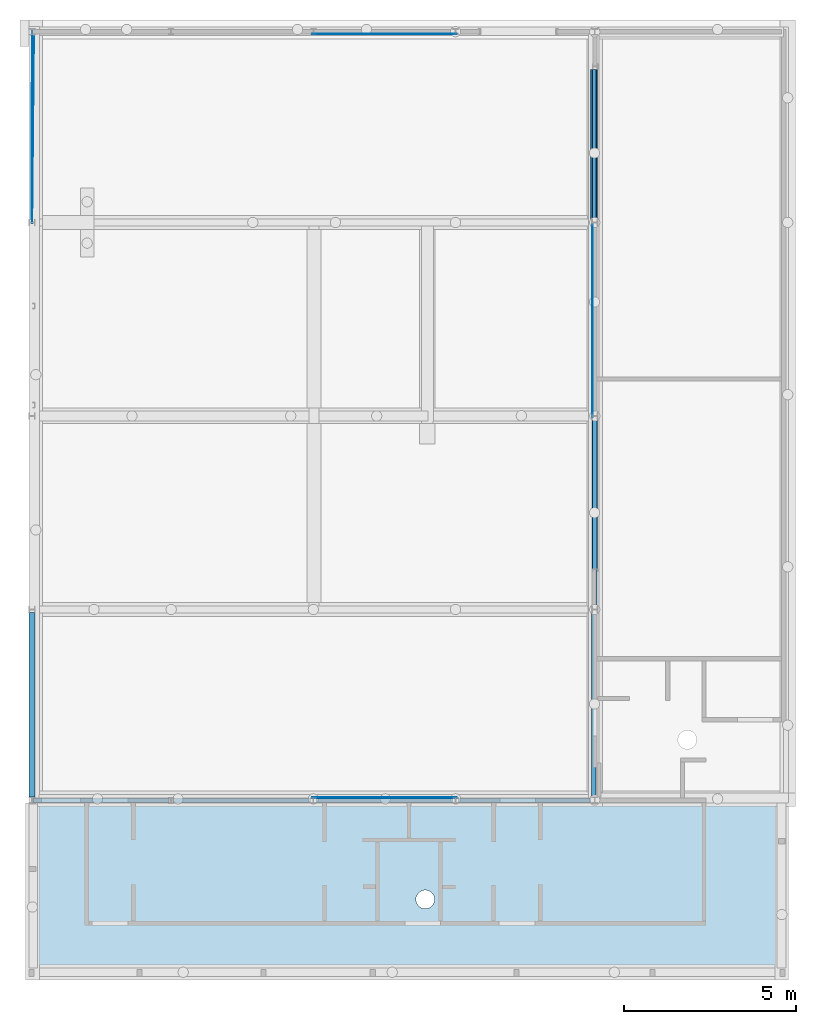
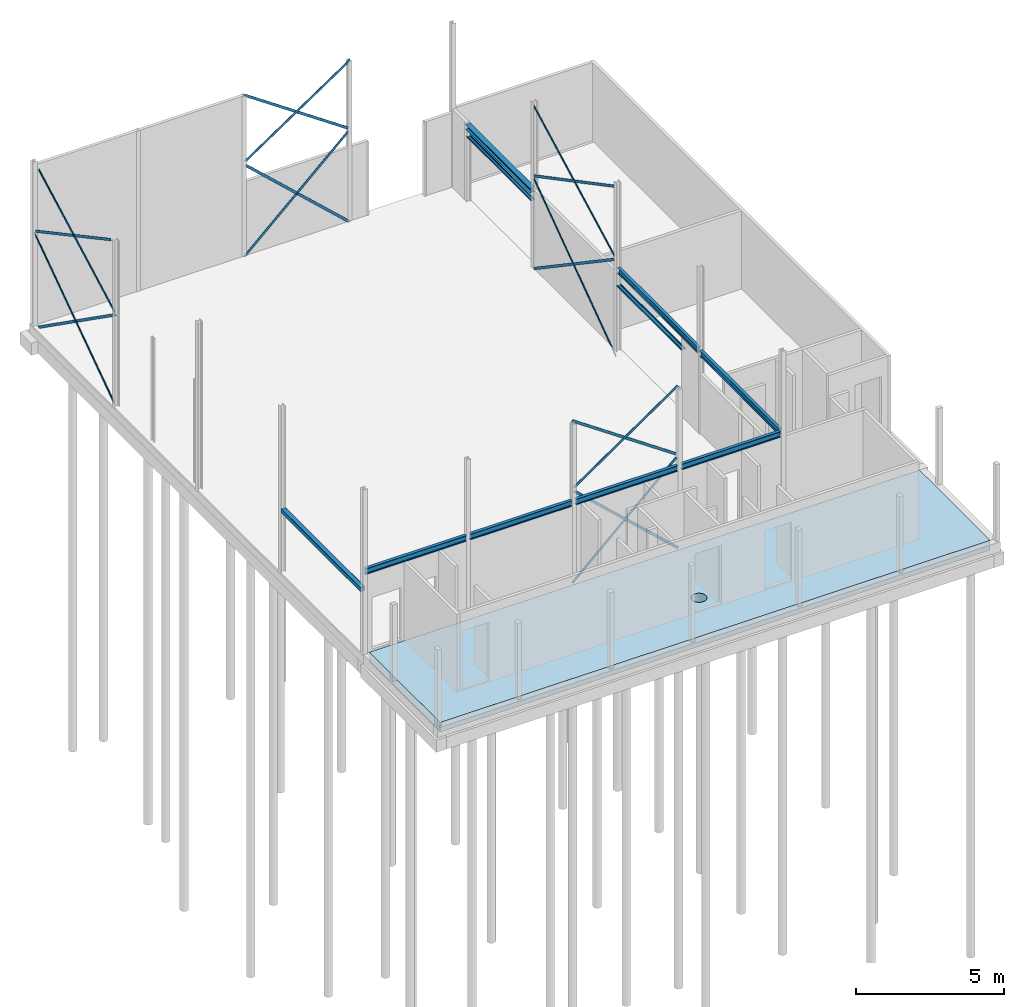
# One storey, part 8 of 17: 26 beams, 1 slab, 1 opening.
"""IFC2X3 building model written with IfcOpenShell, lengths in millimetres."""

from ifc_helpers import new_model, entity, si_unit, converted_unit, derived_unit, direction, frame, frame_2d, origin, origin_2d_with_axis, place, context, subcontext, project, spatial, polyline, circle_curve, parameter, trimmed, segment, composite_curve, rectangle, circle, i_section, outline, extrude, material, layer, layer_set, layer_usage, type_object, element, save


model = new_model("IFC2X3")

# Units and contexts
model_context = context("Model", 3, precision=0.01, world=origin(), true_north=direction((6.123031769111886e-17, 1.0)))
plan_context = context("Plan", 3, precision=0.01, world=origin(), true_north=direction((6.123031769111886e-17, 1.0)))
body_context = subcontext(model_context, "Body", "Model", "MODEL_VIEW")
ifc_project = project(units=[si_unit("LENGTHUNIT", "METRE", prefix="MILLI"), si_unit("AREAUNIT", "SQUARE_METRE"), si_unit("VOLUMEUNIT", "CUBIC_METRE"), converted_unit("PLANEANGLEUNIT", "DEGREE", entity("IfcPlaneAngleMeasure", 0.017453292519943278), si_unit("PLANEANGLEUNIT", "RADIAN"), dimensions=[0, 0, 0, 0, 0, 0, 0]), si_unit("MASSUNIT", "GRAM", prefix="KILO"), derived_unit("MASSDENSITYUNIT", [(si_unit("MASSUNIT", "GRAM", prefix="KILO"), 1), (si_unit("LENGTHUNIT", "METRE"), -3)]), derived_unit("IONCONCENTRATIONUNIT", [(si_unit("MASSUNIT", "GRAM", prefix="KILO"), 1), (si_unit("LENGTHUNIT", "METRE"), -3)]), derived_unit("MOMENTOFINERTIAUNIT", [(si_unit("LENGTHUNIT", "METRE"), 4)]), si_unit("TIMEUNIT", "SECOND"), si_unit("FREQUENCYUNIT", "HERTZ"), si_unit("THERMODYNAMICTEMPERATUREUNIT", "DEGREE_CELSIUS"), derived_unit("THERMALTRANSMITTANCEUNIT", [(si_unit("MASSUNIT", "GRAM", prefix="KILO"), 1), (si_unit("THERMODYNAMICTEMPERATUREUNIT", "KELVIN"), -1), (si_unit("TIMEUNIT", "SECOND"), -3)]), derived_unit("THERMALCONDUCTANCEUNIT", [(si_unit("MASSUNIT", "GRAM", prefix="KILO"), 1), (si_unit("THERMODYNAMICTEMPERATUREUNIT", "KELVIN"), -1), (si_unit("TIMEUNIT", "SECOND"), -3), (si_unit("LENGTHUNIT", "METRE"), 1)]), derived_unit("VOLUMETRICFLOWRATEUNIT", [(si_unit("LENGTHUNIT", "METRE", prefix="DECI"), 3), (si_unit("TIMEUNIT", "SECOND"), -1)]), derived_unit("MASSFLOWRATEUNIT", [(si_unit("MASSUNIT", "GRAM", prefix="KILO"), 1), (si_unit("TIMEUNIT", "SECOND"), -1)]), derived_unit("ROTATIONALFREQUENCYUNIT", [(si_unit("TIMEUNIT", "SECOND"), -1)]), si_unit("ELECTRICCURRENTUNIT", "AMPERE"), si_unit("ELECTRICVOLTAGEUNIT", "VOLT"), si_unit("POWERUNIT", "WATT"), si_unit("FORCEUNIT", "NEWTON", prefix="KILO"), si_unit("ILLUMINANCEUNIT", "LUX"), si_unit("LUMINOUSFLUXUNIT", "LUMEN"), si_unit("LUMINOUSINTENSITYUNIT", "CANDELA"), si_unit("ENERGYUNIT", "JOULE"), derived_unit("USERDEFINED", [(si_unit("MASSUNIT", "GRAM", prefix="KILO"), -1), (si_unit("LENGTHUNIT", "METRE"), -2), (si_unit("TIMEUNIT", "SECOND"), 3), (si_unit("LUMINOUSFLUXUNIT", "LUMEN"), 1)]), derived_unit("USERDEFINED", [(si_unit("MASSUNIT", "GRAM", prefix="KILO"), 1), (si_unit("TIMEUNIT", "SECOND"), -3), (si_unit("LENGTHUNIT", "METRE"), 3), (si_unit("ELECTRICCURRENTUNIT", "AMPERE"), -2)]), derived_unit("SOUNDPOWERUNIT", [(si_unit("MASSUNIT", "GRAM", prefix="KILO"), 1), (si_unit("TIMEUNIT", "SECOND"), -3), (si_unit("LENGTHUNIT", "METRE"), 2)]), derived_unit("SOUNDPRESSUREUNIT", [(si_unit("MASSUNIT", "GRAM", prefix="KILO"), 1), (si_unit("LENGTHUNIT", "METRE"), -1), (si_unit("TIMEUNIT", "SECOND"), -2)]), derived_unit("LINEARVELOCITYUNIT", [(si_unit("LENGTHUNIT", "METRE"), 1), (si_unit("TIMEUNIT", "SECOND"), -1)]), si_unit("PRESSUREUNIT", "PASCAL"), derived_unit("USERDEFINED", [(si_unit("MASSUNIT", "GRAM", prefix="KILO"), 1), (si_unit("LENGTHUNIT", "METRE"), -2), (si_unit("TIMEUNIT", "SECOND"), -2)]), derived_unit("LINEARFORCEUNIT", [(si_unit("MASSUNIT", "GRAM", prefix="KILO"), 1), (si_unit("TIMEUNIT", "SECOND"), -2)]), derived_unit("PLANARFORCEUNIT", [(si_unit("MASSUNIT", "GRAM", prefix="KILO"), 1), (si_unit("LENGTHUNIT", "METRE"), -1), (si_unit("TIMEUNIT", "SECOND"), -2)]), derived_unit("SPECIFICHEATCAPACITYUNIT", [(si_unit("THERMODYNAMICTEMPERATUREUNIT", "KELVIN"), -1), (si_unit("LENGTHUNIT", "METRE"), 2), (si_unit("TIMEUNIT", "SECOND"), -2)]), derived_unit("HEATFLUXDENSITYUNIT", [(si_unit("MASSUNIT", "GRAM", prefix="KILO"), 1), (si_unit("TIMEUNIT", "SECOND"), -3)]), derived_unit("HEATINGVALUEUNIT", [(si_unit("LENGTHUNIT", "METRE"), 2), (si_unit("TIMEUNIT", "SECOND"), -2)]), derived_unit("VAPORPERMEABILITYUNIT", [(si_unit("LENGTHUNIT", "METRE"), -1), (si_unit("TIMEUNIT", "SECOND"), 1)]), derived_unit("DYNAMICVISCOSITYUNIT", [(si_unit("MASSUNIT", "GRAM", prefix="KILO"), 1), (si_unit("TIMEUNIT", "SECOND"), -1), (si_unit("LENGTHUNIT", "METRE"), -1)]), derived_unit("THERMALEXPANSIONCOEFFICIENTUNIT", [(si_unit("THERMODYNAMICTEMPERATUREUNIT", "KELVIN"), -1)]), derived_unit("MODULUSOFELASTICITYUNIT", [(si_unit("MASSUNIT", "GRAM", prefix="KILO"), 1), (si_unit("LENGTHUNIT", "METRE"), -1), (si_unit("TIMEUNIT", "SECOND"), -2)]), derived_unit("ISOTHERMALMOISTURECAPACITYUNIT", [(si_unit("MASSUNIT", "GRAM", prefix="KILO"), -1), (si_unit("LENGTHUNIT", "METRE"), 3)]), derived_unit("MOISTUREDIFFUSIVITYUNIT", [(si_unit("TIMEUNIT", "SECOND"), -1), (si_unit("LENGTHUNIT", "METRE"), 2)]), derived_unit("MASSPERLENGTHUNIT", [(si_unit("MASSUNIT", "GRAM", prefix="KILO"), 1), (si_unit("LENGTHUNIT", "METRE"), -1)]), derived_unit("THERMALRESISTANCEUNIT", [(si_unit("MASSUNIT", "GRAM", prefix="KILO"), -1), (si_unit("TIMEUNIT", "SECOND"), 3), (si_unit("THERMODYNAMICTEMPERATUREUNIT", "KELVIN"), 1)]), derived_unit("ACCELERATIONUNIT", [(si_unit("LENGTHUNIT", "METRE"), 1), (si_unit("TIMEUNIT", "SECOND"), -2)]), derived_unit("ANGULARVELOCITYUNIT", [(si_unit("TIMEUNIT", "SECOND"), -1), (si_unit("PLANEANGLEUNIT", "RADIAN"), 1)]), derived_unit("LINEARSTIFFNESSUNIT", [(si_unit("MASSUNIT", "GRAM", prefix="KILO"), 1), (si_unit("TIMEUNIT", "SECOND"), -2)]), derived_unit("WARPINGCONSTANTUNIT", [(si_unit("LENGTHUNIT", "METRE"), 6)]), derived_unit("LINEARMOMENTUNIT", [(si_unit("MASSUNIT", "GRAM", prefix="KILO"), 1), (si_unit("LENGTHUNIT", "METRE"), 1), (si_unit("TIMEUNIT", "SECOND"), -2)]), derived_unit("TORQUEUNIT", [(si_unit("MASSUNIT", "GRAM", prefix="KILO"), 1), (si_unit("LENGTHUNIT", "METRE"), 2), (si_unit("TIMEUNIT", "SECOND"), -2)])], contexts=[model_context, plan_context])

# Site, building, storey
site_placement = place(None, origin())
site = spatial("IfcSite", under=ifc_project, at=site_placement, Name="Default", CompositionType="ELEMENT")
building_placement = place(site_placement, origin())
building = spatial("IfcBuilding", under=site, at=building_placement, CompositionType="ELEMENT")
storey_placement = place(building_placement, origin())
storey = spatial("IfcBuildingStorey", under=building, at=storey_placement, Name="00 begane grond", CompositionType="ELEMENT", Elevation=0.0)

# Beams
ifc_material_1 = material(Name="constructiestaal S235")
beam_type_1 = type_object("IfcBeamType", Name="28_SF_LIB_IPE ligger_dw:IPE240 (S235)", PredefinedType="NOTDEFINED")
beam_1_placement = place(storey_placement, frame((50500.68285187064, 21972.67034020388, 3397.0), z_axis=(0.0, 0.0, 1.0), x_axis=(0.0, 1.0, 0.0)))
element("IfcBeam", 1, at=beam_1_placement, inside=storey, type_object=beam_type_1, material=ifc_material_1, Name="28_SF_LIB_IPE ligger_dw:IPE240 (S235)", ObjectType="28_SF_LIB_IPE ligger_dw:IPE240 (S235)", context=body_context, shape_type="SweptSolid", body=[
    extrude(i_section(OverallWidth=120.00000000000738, OverallDepth=240.00000000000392, WebThickness=6.199999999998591, FlangeThickness=9.80000000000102, FilletRadius=14.999999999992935, at=frame_2d((1.6271428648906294e-12, 4.330757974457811e-12), x_axis=(0.0, 1.0))), frame((0.0, -0.010085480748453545, -120.0), z_axis=(1.0, 0.0, 0.0), x_axis=(0.0, 0.0, -1.0)), (0.0, 0.0, 1.0), 5430.000000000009),
])
beam_2_placement = place(storey_placement, frame((50470.41285187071, 16423.670463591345, 3397.0), z_axis=(0.0, 0.0, 1.0), x_axis=(0.0, 1.0, 0.0)))
element("IfcBeam", 2, at=beam_2_placement, inside=storey, type_object=beam_type_1, material=ifc_material_1, Name="28_SF_LIB_IPE ligger_dw:IPE240 (S235)", ObjectType="28_SF_LIB_IPE ligger_dw:IPE240 (S235)", context=body_context, shape_type="SweptSolid", body=[
    extrude(i_section(OverallWidth=120.00000000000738, OverallDepth=240.00000000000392, WebThickness=6.199999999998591, FlangeThickness=9.80000000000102, FilletRadius=14.999999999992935, at=frame_2d((1.0800249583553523e-12, 4.330757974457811e-12), x_axis=(0.0, 1.0))), frame((0.0, -0.010085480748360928, -120.0), z_axis=(1.0, 0.0, 0.0), x_axis=(0.0, 0.0, -1.0)), (0.0, 0.0, 1.0), 5358.999876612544),
])
beam_3_placement = place(storey_placement, frame((46526.19293735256, 16328.670463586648, 3397.0)))
element("IfcBeam", 3, at=beam_3_placement, inside=storey, type_object=beam_type_1, material=ifc_material_1, Name="28_SF_LIB_IPE ligger_dw:IPE240 (S235)", ObjectType="28_SF_LIB_IPE ligger_dw:IPE240 (S235)", context=body_context, shape_type="SweptSolid", body=[
    extrude(i_section(OverallWidth=120.00000000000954, OverallDepth=240.00000000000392, WebThickness=6.19999999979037, FlangeThickness=9.80000000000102, FilletRadius=15.000000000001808, at=frame_2d((1.0871303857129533e-12, -2.163602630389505e-12), x_axis=(0.0, 1.0))), frame((0.0, -0.010085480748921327, -120.0), z_axis=(1.0, 0.0, 0.0), x_axis=(0.0, 0.0, -1.0)), (0.0, 0.0, 1.0), 3870.000000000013),
])
beam_4_placement = place(storey_placement, frame((42396.19293735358, 16328.67046358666, 3397.0)))
element("IfcBeam", 4, at=beam_4_placement, inside=storey, type_object=beam_type_1, material=ifc_material_1, Name="28_SF_LIB_IPE ligger_dw:IPE240 (S235)", ObjectType="28_SF_LIB_IPE ligger_dw:IPE240 (S235)", context=body_context, shape_type="SweptSolid", body=[
    extrude(i_section(OverallWidth=120.00000000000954, OverallDepth=240.00000000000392, WebThickness=6.199999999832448, FlangeThickness=9.800000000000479, FilletRadius=15.000000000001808, at=frame_2d((1.0871303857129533e-12, 4.330757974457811e-12), x_axis=(0.0, 1.0))), frame((0.0, -0.01008548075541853, -120.0), z_axis=(1.0, 0.0, 0.0), x_axis=(0.0, 0.0, -1.0)), (0.0, 0.0, 1.0), 3979.4769255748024),
])
beam_5_placement = place(storey_placement, frame((38266.19293735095, 16328.670463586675, 3397.0)))
element("IfcBeam", 5, at=beam_5_placement, inside=storey, type_object=beam_type_1, material=ifc_material_1, Name="28_SF_LIB_IPE ligger_dw:IPE240 (S235)", ObjectType="28_SF_LIB_IPE ligger_dw:IPE240 (S235)", context=body_context, shape_type="SweptSolid", body=[
    extrude(i_section(OverallWidth=120.00000000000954, OverallDepth=240.00000000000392, WebThickness=6.199999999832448, FlangeThickness=9.800000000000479, FilletRadius=15.000000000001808, at=frame_2d((1.0871303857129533e-12, 0.0), x_axis=(0.0, 1.0))), frame((0.0, -0.010085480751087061, -120.0), z_axis=(1.0, 0.0, 0.0), x_axis=(0.0, 0.0, -1.0)), (0.0, 0.0, 1.0), 3980.428429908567),
])
beam_6_placement = place(storey_placement, frame((34181.19293735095, 16328.670463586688, 3397.0)))
element("IfcBeam", 6, at=beam_6_placement, inside=storey, type_object=beam_type_1, material=ifc_material_1, Name="28_SF_LIB_IPE ligger_dw:IPE240 (S235)", ObjectType="28_SF_LIB_IPE ligger_dw:IPE240 (S235)", context=body_context, shape_type="SweptSolid", body=[
    extrude(i_section(OverallWidth=120.00000000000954, OverallDepth=240.00000000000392, WebThickness=6.19999999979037, FlangeThickness=9.80000000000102, FilletRadius=15.000000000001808, at=frame_2d((1.0871303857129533e-12, -2.163602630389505e-12), x_axis=(0.0, 1.0))), frame((0.0, -0.010085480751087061, -120.0), z_axis=(1.0, 0.0, 0.0), x_axis=(0.0, 0.0, -1.0)), (0.0, 0.0, 1.0), 3945.000000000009),
])
beam_type_2 = type_object("IfcBeamType", Name="28_SF_LIB_HEA ligger_dw:HE200A (S235)", PredefinedType="NOTDEFINED")
beam_7_placement = place(storey_placement, frame((50476.19293735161, 33212.67034020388, 3160.0), z_axis=(0.0, 0.0, 1.0), x_axis=(0.0, 1.0, 0.0)))
element("IfcBeam", 7, at=beam_7_placement, inside=storey, type_object=beam_type_2, material=ifc_material_1, Name="28_SF_LIB_HEA ligger_dw:HE200A (S235)", ObjectType="28_SF_LIB_HEA ligger_dw:HE200A (S235)", context=body_context, shape_type="SweptSolid", body=[
    extrude(i_section(OverallWidth=200.0000000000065, OverallDepth=190.00000000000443, WebThickness=6.499999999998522, FlangeThickness=10.000000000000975, FilletRadius=17.999999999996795, at=frame_2d((1.0871303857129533e-12, -4.334310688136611e-12), x_axis=(0.0, 1.0))), frame((0.0, 0.0, -95.0), z_axis=(1.0, 0.0, 0.0), x_axis=(0.0, 0.0, -1.0)), (0.0, 0.0, 1.0), 4347.32454623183),
])
beam_type_3 = type_object("IfcBeamType", Name="28_SF_LIB_UNP ligger_dw:UNP160 (S235)", PredefinedType="NOTDEFINED")
beam_8_placement = place(storey_placement, frame((50575.192937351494, 21877.670340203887, 2648.4000000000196), z_axis=(0.0, 0.0, 1.0), x_axis=(0.0, 1.0, 0.0)))
element("IfcBeam", 8, at=beam_8_placement, inside=storey, type_object=beam_type_3, material=ifc_material_1, Name="28_SF_LIB_UNP ligger_dw:UNP160 (S235)", ObjectType="28_SF_LIB_UNP ligger_dw:UNP160 (S235)", context=body_context, shape_type="SweptSolid", body=[
    extrude(outline(composite_curve([segment(polyline([(-29.249999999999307, -80.0623972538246), (35.749999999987, -80.0623972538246)]), True, "CONTINUOUS"), segment(polyline([(35.75000000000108, -80.0623972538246), (35.74999999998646, 79.9376027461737)]), True, "CONTINUOUS"), segment(polyline([(35.74999999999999, 79.9376027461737), (-29.25000000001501, 79.9376027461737)]), True, "CONTINUOUS"), segment(polyline([(-29.250000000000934, 79.9376027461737), (-29.25000000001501, 75.21770177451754)]), True, "CONTINUOUS"), segment(trimmed(circle_curve(frame_2d((-23.750000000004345, 75.2177017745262), x_axis=(-1.0, 0.0)), 5.499999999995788), [parameter(0.0)], [parameter(90.00000000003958)], True, "PARAMETER"), True, "CONTINUOUS"), segment(polyline([(-23.750000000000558, 69.71770177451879), (18.24999999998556, 67.32541273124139)]), True, "CONTINUOUS"), segment(trimmed(circle_curve(frame_2d((18.250000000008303, 57.32541273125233), x_axis=(0.0, 1.0)), 9.999999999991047), [parameter(269.9999999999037)], [parameter(0.0)], True, "PARAMETER"), False, "CONTINUOUS"), segment(polyline([(28.25000000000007, 57.32541273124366), (28.249999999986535, -56.81086063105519)]), True, "CONTINUOUS"), segment(trimmed(circle_curve(frame_2d((18.250000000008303, -56.810860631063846), x_axis=(1.0, 0.0)), 9.999999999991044), [parameter(269.9999999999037)], [parameter(0.0)], True, "PARAMETER"), False, "CONTINUOUS"), segment(polyline([(18.25000000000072, -66.81086063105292), (-23.750000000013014, -70.10745936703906)]), True, "CONTINUOUS"), segment(trimmed(circle_curve(frame_2d((-23.750000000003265, -75.6074593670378), x_axis=(0.0, 1.0)), 5.499999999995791), [parameter(0.0)], [parameter(90.00000000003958)], True, "PARAMETER"), True, "CONTINUOUS"), segment(polyline([(-29.249999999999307, -75.6074593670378), (-29.250000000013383, -80.0623972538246)]), True, "CONTINUOUS")], self_intersect=False)), frame((1167.5001455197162, 80.06239725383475, 17.34999999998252), z_axis=(1.0, 0.0, 0.0), x_axis=(0.0, 0.0, -1.0)), (0.0, 0.0, 1.0), 4357.499854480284),
])
beam_type_4 = type_object("IfcBeamType", Name="28_SF_LIB_strip ligger_dw:strip 100x8 (S235)", PredefinedType="NOTDEFINED")
beam_9_placement = place(storey_placement, frame((42326.20088947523, 38589.74769387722, -100.0), z_axis=(-0.6791876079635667, 0.000655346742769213, 0.7339644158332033), x_axis=(0.7339640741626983, -0.0007082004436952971, 0.6791879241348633)))
element("IfcBeam", 9, at=beam_9_placement, inside=storey, type_object=beam_type_4, material=ifc_material_1, Name="28_SF_LIB_strip ligger_dw:strip 100x8 (S235)", ObjectType="28_SF_LIB_strip ligger_dw:strip 100x8 (S235)", context=body_context, shape_type="SweptSolid", body=[
    extrude(rectangle(XDim=100.00000000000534, YDim=8.00000000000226, at=frame_2d((-5.5067062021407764e-12, -4.218847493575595e-15), x_axis=(1.0, 0.0))), frame((0.0, 0.0, 0.010085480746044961), z_axis=(1.0, 0.0, 0.0), x_axis=(0.0, 0.0, -1.0)), (0.0, 0.0, 1.0), 5531.606005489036),
])
beam_10_placement = place(storey_placement, frame((42325.96195907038, 38588.81012650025, 6580.0), z_axis=(0.5663331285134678, 0.0, 0.8241764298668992), x_axis=(0.8241764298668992, 0.0, -0.5663331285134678)))
element("IfcBeam", 10, at=beam_10_placement, inside=storey, type_object=beam_type_4, material=ifc_material_1, Name="28_SF_LIB_strip ligger_dw:strip 100x8 (S235)", ObjectType="28_SF_LIB_strip ligger_dw:strip 100x8 (S235)", context=body_context, shape_type="SweptSolid", body=[
    extrude(rectangle(XDim=99.9999999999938, YDim=7.999999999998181, at=frame_2d((7.8017592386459e-12, 0.0), x_axis=(1.0, 0.0))), frame((0.0, 0.0, 0.01008548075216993), z_axis=(1.0, 0.0, 0.0), x_axis=(0.0, 0.0, -1.0)), (0.0, 0.0, 1.0), 4926.4290918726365),
])
beam_11_placement = place(storey_placement, frame((42311.19293735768, 38589.76217501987, 3790.0), z_axis=(-0.5583413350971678, 0.0005387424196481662, 0.8296111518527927), x_axis=(0.8296107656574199, -0.000800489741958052, 0.5583415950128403)))
element("IfcBeam", 11, at=beam_11_placement, inside=storey, type_object=beam_type_4, material=ifc_material_1, Name="28_SF_LIB_strip ligger_dw:strip 100x8 (S235)", ObjectType="28_SF_LIB_strip ligger_dw:strip 100x8 (S235)", context=body_context, shape_type="SweptSolid", body=[
    extrude(rectangle(XDim=100.0000000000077, YDim=8.000000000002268, at=frame_2d((8.988365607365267e-13, -2.1658230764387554e-12), x_axis=(1.0, 0.0))), frame((63.267310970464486, 0.0, 0.01008548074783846), z_axis=(1.0, 0.0, 0.0), x_axis=(0.0, 0.0, -1.0)), (0.0, 0.0, 1.0), 4933.67367447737),
])
beam_12_placement = place(storey_placement, frame((42326.177173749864, 16392.657723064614, -100.0), z_axis=(-0.679185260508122, 0.0, 0.7339668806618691), x_axis=(0.7339668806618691, 0.0, 0.679185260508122)))
element("IfcBeam", 12, at=beam_12_placement, inside=storey, type_object=beam_type_4, material=ifc_material_1, Name="28_SF_LIB_strip ligger_dw:strip 100x8 (S235)", ObjectType="28_SF_LIB_strip ligger_dw:strip 100x8 (S235)", context=body_context, shape_type="SweptSolid", body=[
    extrude(rectangle(XDim=100.00000000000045, YDim=8.000000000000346, at=frame_2d((4.281019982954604e-12, 1.0831335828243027e-12), x_axis=(1.0, 0.0))), frame((0.0, 0.0, 0.010085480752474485), z_axis=(1.0, 0.0, 0.0), x_axis=(0.0, 0.0, -1.0)), (0.0, 0.0, 1.0), 5531.627699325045),
])
beam_13_placement = place(storey_placement, frame((42396.17717350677, 16391.616219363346, 3665.5000000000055), z_axis=(0.6800117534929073, 0.0, 0.7332012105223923), x_axis=(0.7332012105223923, 0.0, -0.6800117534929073)))
element("IfcBeam", 13, at=beam_13_placement, inside=storey, type_object=beam_type_4, material=ifc_material_1, Name="28_SF_LIB_strip ligger_dw:strip 100x8 (S235)", ObjectType="28_SF_LIB_strip ligger_dw:strip 100x8 (S235)", context=body_context, shape_type="SweptSolid", body=[
    extrude(rectangle(XDim=100.0000000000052, YDim=7.999999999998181, at=frame_2d((-5.9188209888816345e-12, 1.0831335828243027e-12), x_axis=(1.0, 0.0))), frame((0.0, 0.0, 0.010085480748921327), z_axis=(1.0, 0.0, 0.0), x_axis=(0.0, 0.0, -1.0)), (0.0, 0.0, 1.0), 5537.404288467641),
])
beam_14_placement = place(storey_placement, frame((42325.76246980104, 16418.67034020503, 6580.0), z_axis=(0.5663114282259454, 0.0, 0.8241913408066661), x_axis=(0.8241913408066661, 0.0, -0.5663114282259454)))
element("IfcBeam", 14, at=beam_14_placement, inside=storey, type_object=beam_type_4, material=ifc_material_1, Name="28_SF_LIB_strip ligger_dw:strip 100x8 (S235)", ObjectType="28_SF_LIB_strip ligger_dw:strip 100x8 (S235)", context=body_context, shape_type="SweptSolid", body=[
    extrude(rectangle(XDim=100.00000000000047, YDim=7.999999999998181, at=frame_2d((4.68247662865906e-12, 1.0831335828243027e-12), x_axis=(1.0, 0.0))), frame((0.0, 0.0, 0.010085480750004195), z_axis=(1.0, 0.0, 0.0), x_axis=(0.0, 0.0, -1.0)), (0.0, 0.0, 1.0), 4926.617865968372),
])
beam_15_placement = place(storey_placement, frame((42396.14762367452, 16418.670340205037, 3790.0), z_axis=(-0.5662829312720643, 0.0, 0.8242109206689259), x_axis=(0.8242109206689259, 0.0, 0.5662829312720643)))
element("IfcBeam", 15, at=beam_15_placement, inside=storey, type_object=beam_type_4, material=ifc_material_1, Name="28_SF_LIB_strip ligger_dw:strip 100x8 (S235)", ObjectType="28_SF_LIB_strip ligger_dw:strip 100x8 (S235)", context=body_context, shape_type="SweptSolid", body=[
    extrude(rectangle(XDim=99.99999999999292, YDim=8.000000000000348, at=frame_2d((0.0, -1.0831335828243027e-12), x_axis=(1.0, 0.0))), frame((0.0, 0.0, 0.01008548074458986), z_axis=(1.0, 0.0, 0.0), x_axis=(0.0, 0.0, -1.0)), (0.0, 0.0, 1.0), 4926.865787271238),
])
beam_16_placement = place(storey_placement, frame((34161.192937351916, 38642.6703402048, 3723.4999999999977), z_axis=(-0.0009769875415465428, -0.5687095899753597, 0.8225378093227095), x_axis=(-0.001413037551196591, -0.8225365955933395, -0.5687104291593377)))
element("IfcBeam", 16, at=beam_16_placement, inside=storey, type_object=beam_type_4, material=ifc_material_1, Name="28_SF_LIB_strip ligger_dw:strip 100x8 (S235)", ObjectType="28_SF_LIB_strip ligger_dw:strip 100x8 (S235)", context=body_context, shape_type="SweptSolid", body=[
    extrude(rectangle(XDim=100.00000000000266, YDim=8.00000000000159, at=frame_2d((-2.7888802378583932e-12, 2.169597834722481e-12), x_axis=(1.0, 0.0))), frame((0.0, 0.0, 0.010085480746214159), z_axis=(1.0, 0.0, 0.0), x_axis=(0.0, 0.0, -1.0)), (0.0, 0.0, 1.0), 6566.40169855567),
])
beam_17_placement = place(storey_placement, frame((34161.19309171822, 33112.41237521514, 3694.0), z_axis=(0.005611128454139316, 0.5774604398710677, 0.8163993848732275), x_axis=(0.007932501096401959, 0.816360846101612, -0.5774877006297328)))
element("IfcBeam", 17, at=beam_17_placement, inside=storey, type_object=beam_type_4, material=ifc_material_1, Name="28_SF_LIB_strip ligger_dw:strip 100x8 (S235)", ObjectType="28_SF_LIB_strip ligger_dw:strip 100x8 (S235)", context=body_context, shape_type="SweptSolid", body=[
    extrude(rectangle(XDim=99.99999999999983, YDim=8.000000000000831, at=frame_2d((-2.149391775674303e-12, -2.1445067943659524e-12), x_axis=(1.0, 0.0))), frame((0.0, 0.0, -0.010085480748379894), z_axis=(1.0, 0.0, 0.0), x_axis=(0.0, 0.0, -1.0)), (0.0, 0.0, 1.0), 6573.019129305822),
])
beam_18_placement = place(storey_placement, frame((34161.192625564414, 38561.67034020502, 3833.809004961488), z_axis=(8.65731170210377e-07, 0.47379380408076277, 0.8806358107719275), x_axis=(-1.6091258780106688e-06, -0.8806358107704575, 0.47379380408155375)))
element("IfcBeam", 18, at=beam_18_placement, inside=storey, type_object=beam_type_4, material=ifc_material_1, Name="28_SF_LIB_strip ligger_dw:strip 100x8 (S235)", ObjectType="28_SF_LIB_strip ligger_dw:strip 100x8 (S235)", context=body_context, shape_type="SweptSolid", body=[
    extrude(rectangle(XDim=100.00000000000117, YDim=7.999999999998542, at=frame_2d((-2.3803181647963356e-13, 2.1656010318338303e-12), x_axis=(1.0, 0.0))), frame((0.0, 0.0, 0.010085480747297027), z_axis=(1.0, 0.0, 0.0), x_axis=(0.0, 0.0, -1.0)), (0.0, 0.0, 1.0), 5799.404199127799),
])
beam_19_placement = place(storey_placement, frame((34161.19292925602, 33202.67034020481, 3744.316564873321), z_axis=(8.893165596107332e-07, -0.4734103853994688, 0.8808419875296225), x_axis=(-1.654689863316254e-06, 0.8808419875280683, 0.4734103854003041)))
element("IfcBeam", 19, at=beam_19_placement, inside=storey, type_object=beam_type_4, material=ifc_material_1, Name="28_SF_LIB_strip ligger_dw:strip 100x8 (S235)", ObjectType="28_SF_LIB_strip ligger_dw:strip 100x8 (S235)", context=body_context, shape_type="SweptSolid", body=[
    extrude(rectangle(XDim=99.9999999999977, YDim=8.000000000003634, at=frame_2d((2.3803181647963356e-13, 2.1656010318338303e-12), x_axis=(1.0, 0.0))), frame((0.0, 0.0, -0.01008548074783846), z_axis=(1.0, 0.0, 0.0), x_axis=(0.0, 0.0, -1.0)), (0.0, 0.0, 1.0), 5831.889913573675),
])
beam_20_placement = place(storey_placement, frame((50428.69293735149, 33021.617949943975, 3657.0), z_axis=(0.0, -0.5821735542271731, 0.8130645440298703), x_axis=(0.0, -0.8130645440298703, -0.5821735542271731)))
element("IfcBeam", 20, at=beam_20_placement, inside=storey, type_object=beam_type_4, material=ifc_material_1, Name="28_SF_LIB_strip ligger_dw:strip 100x8 (S235)", ObjectType="28_SF_LIB_strip ligger_dw:strip 100x8 (S235)", context=body_context, shape_type="SweptSolid", body=[
    extrude(rectangle(XDim=100.00000000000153, YDim=8.000000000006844, at=frame_2d((-2.2026824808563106e-13, 0.0), x_axis=(1.0, 0.0))), frame((0.0, 0.0, -0.010085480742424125), z_axis=(1.0, 0.0, 0.0), x_axis=(0.0, 0.0, -1.0)), (0.0, 0.0, 1.0), 6814.119211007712),
])
beam_21_placement = place(storey_placement, frame((50428.69293735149, 27582.93325911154, 3632.82836612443), z_axis=(0.0, 0.560236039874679, 0.8283330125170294), x_axis=(0.0, 0.8283330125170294, -0.560236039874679)))
element("IfcBeam", 21, at=beam_21_placement, inside=storey, type_object=beam_type_4, material=ifc_material_1, Name="28_SF_LIB_strip ligger_dw:strip 100x8 (S235)", ObjectType="28_SF_LIB_strip ligger_dw:strip 100x8 (S235)", context=body_context, shape_type="SweptSolid", body=[
    extrude(rectangle(XDim=100.00000000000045, YDim=8.000000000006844, at=frame_2d((1.886490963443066e-12, 0.0), x_axis=(1.0, 0.0))), frame((0.0, 0.0, 0.010085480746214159), z_axis=(1.0, 0.0, 0.0), x_axis=(0.0, 0.0, -1.0)), (0.0, 0.0, 1.0), 6567.089562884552),
])
beam_22_placement = place(storey_placement, frame((50428.69293735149, 27582.582104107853, 3781.183702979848), z_axis=(0.0, -0.46698403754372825, 0.8842657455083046), x_axis=(0.0, 0.8842657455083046, 0.46698403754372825)))
element("IfcBeam", 22, at=beam_22_placement, inside=storey, type_object=beam_type_4, material=ifc_material_1, Name="28_SF_LIB_strip ligger_dw:strip 100x8 (S235)", ObjectType="28_SF_LIB_strip ligger_dw:strip 100x8 (S235)", context=body_context, shape_type="SweptSolid", body=[
    extrude(rectangle(XDim=100.00000000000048, YDim=8.000000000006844, at=origin_2d_with_axis()), frame((0.0, 0.0, 0.010085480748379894), z_axis=(1.0, 0.0, 0.0), x_axis=(0.0, 0.0, -1.0)), (0.0, 0.0, 1.0), 6140.787725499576),
])
beam_23_placement = place(storey_placement, frame((50428.6929373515, 33022.67034020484, 3781.1837029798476), z_axis=(0.0, 0.46657336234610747, 0.8844825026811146), x_axis=(0.0, -0.8844825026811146, 0.46657336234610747)))
element("IfcBeam", 23, at=beam_23_placement, inside=storey, type_object=beam_type_4, material=ifc_material_1, Name="28_SF_LIB_strip ligger_dw:strip 100x8 (S235)", ObjectType="28_SF_LIB_strip ligger_dw:strip 100x8 (S235)", context=body_context, shape_type="SweptSolid", body=[
    extrude(rectangle(XDim=99.99999999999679, YDim=7.999999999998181, at=frame_2d((-1.6768808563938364e-12, 8.663070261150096e-12), x_axis=(1.0, 0.0))), frame((0.0, 0.0, 0.010085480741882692), z_axis=(1.0, 0.0, 0.0), x_axis=(0.0, 0.0, -1.0)), (0.0, 0.0, 1.0), 6146.192811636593),
])
beam_24_placement = place(storey_placement, frame((46446.18498523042, 38589.74769387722, -100.0), z_axis=(0.6791876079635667, 0.000655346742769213, 0.7339644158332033), x_axis=(-0.7339640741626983, -0.0007082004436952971, 0.6791879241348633)))
element("IfcBeam", 24, at=beam_24_placement, inside=storey, type_object=beam_type_4, material=ifc_material_1, Name="28_SF_LIB_strip ligger_dw:strip 100x8 (S235)", ObjectType="28_SF_LIB_strip ligger_dw:strip 100x8 (S235)", context=body_context, shape_type="SweptSolid", body=[
    extrude(rectangle(XDim=100.00000000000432, YDim=7.99999999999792, at=frame_2d((4.568789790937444e-12, 4.327427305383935e-12), x_axis=(1.0, 0.0))), frame((0.0, 0.0, 0.010085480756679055), z_axis=(1.0, 0.0, 0.0), x_axis=(0.0, 0.0, -1.0)), (0.0, 0.0, 1.0), 5531.606005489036),
])
beam_type_5 = type_object("IfcBeamType", Name="28_SF_LIB_UNP ligger_dw:UNP140 (S235)", PredefinedType="NOTDEFINED")
beam_25_placement = place(storey_placement, frame((50552.1929373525, 33202.67034020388, 2652.550000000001), z_axis=(0.0, 0.0, 1.0), x_axis=(0.0, 1.0, 0.0)))
element("IfcBeam", 25, at=beam_25_placement, inside=storey, type_object=beam_type_5, material=ifc_material_1, Name="28_SF_LIB_UNP ligger_dw:UNP140 (S235)", ObjectType="28_SF_LIB_UNP ligger_dw:UNP140 (S235)", context=body_context, shape_type="SweptSolid", body=[
    extrude(outline(composite_curve([segment(polyline([(-26.833333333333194, -70.06239725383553), (33.16666666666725, -70.06239725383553)]), True, "CONTINUOUS"), segment(polyline([(33.16666666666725, -70.06239725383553), (33.16666666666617, 69.9376027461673)]), True, "CONTINUOUS"), segment(polyline([(33.16666666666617, 69.9376027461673), (-26.833333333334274, 69.9376027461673)]), True, "CONTINUOUS"), segment(polyline([(-26.833333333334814, 69.9376027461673), (-26.833333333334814, 65.1652017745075)]), True, "CONTINUOUS"), segment(trimmed(circle_curve(frame_2d((-21.833333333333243, 65.16520177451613), x_axis=(-1.0, 0.0)), 5.000000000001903), [parameter(0.0)], [parameter(89.99999999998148)], True, "PARAMETER"), True, "CONTINUOUS"), segment(polyline([(-21.83333333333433, 60.16520177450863), (16.166666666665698, 58.14041273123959)]), True, "CONTINUOUS"), segment(trimmed(circle_curve(frame_2d((16.16666666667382, 48.14041273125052), x_axis=(0.0, 1.0)), 9.999999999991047), [parameter(269.9999999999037)], [parameter(0.0)], True, "PARAMETER"), False, "CONTINUOUS"), segment(polyline([(26.16666666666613, 48.1404127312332), (26.16666666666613, -47.625860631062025)]), True, "CONTINUOUS"), segment(trimmed(circle_curve(frame_2d((16.16666666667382, -47.625860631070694), x_axis=(1.0, 0.0)), 9.999999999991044), [parameter(269.9999999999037)], [parameter(0.0)], True, "PARAMETER"), False, "CONTINUOUS"), segment(polyline([(16.166666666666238, -57.62586063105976), (-21.833333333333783, -60.55495936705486)]), True, "CONTINUOUS"), segment(trimmed(circle_curve(frame_2d((-21.833333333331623, -65.55495936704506), x_axis=(0.0, 1.0)), 5.0000000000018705), [parameter(0.0)], [parameter(89.99999999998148)], True, "PARAMETER"), True, "CONTINUOUS"), segment(polyline([(-26.833333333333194, -65.55495936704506), (-26.833333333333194, -70.06239725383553)]), True, "CONTINUOUS")], self_intersect=False)), frame((0.0, 70.06239725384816, 15.616666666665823), z_axis=(1.0, 0.0, 0.0), x_axis=(0.0, 0.0, -1.0)), (0.0, 0.0, 1.0), 4357.324546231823),
])
ifc_material_2 = material(Name="constructiestaal S355")
beam_type_6 = type_object("IfcBeamType", Name="28_SF_UN_koker ligger_dw:K180x180x10 (S355)", PredefinedType="NOTDEFINED")
beam_26_placement = place(storey_placement, origin())
element("IfcBeam", 26, at=beam_26_placement, inside=storey, type_object=beam_type_6, material=ifc_material_2, Name="28_SF_UN_koker ligger_dw:K180x180x10 (S355)", ObjectType="28_SF_UN_koker ligger_dw:K180x180x10 (S355)", context=body_context, shape_type="SweptSolid", body=[
    extrude(outline(composite_curve([segment(polyline([(-75.0, -90.0), (75.0, -90.0)]), True, "CONTINUOUS"), segment(trimmed(circle_curve(frame_2d((75.0, -75.0), x_axis=(-1.0, 0.0)), 15.0), [parameter(90.00000000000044)], [parameter(180.0000000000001)], True, "PARAMETER"), True, "CONTINUOUS"), segment(polyline([(90.0, -75.0), (90.0, 75.0)]), True, "CONTINUOUS"), segment(trimmed(circle_curve(frame_2d((75.0, 75.0), x_axis=(-1.0, 0.0)), 15.0), [parameter(180.00000000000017)], [parameter(269.9999999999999)], True, "PARAMETER"), True, "CONTINUOUS"), segment(polyline([(75.0, 90.0), (-75.0, 90.0)]), True, "CONTINUOUS"), segment(trimmed(circle_curve(frame_2d((-75.0, 75.0), x_axis=(-1.0, 0.0)), 15.0), [parameter(270.0000000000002)], [parameter(3.053332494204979e-13)], True, "PARAMETER"), True, "CONTINUOUS"), segment(polyline([(-90.0, 75.0), (-90.0, -75.0)]), True, "CONTINUOUS"), segment(trimmed(circle_curve(frame_2d((-75.0, -75.0), x_axis=(-1.0, 0.0)), 15.0), [parameter(3.053332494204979e-13)], [parameter(90.0000000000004)], True, "PARAMETER"), True, "CONTINUOUS")], self_intersect=False), holes=[composite_curve([segment(trimmed(circle_curve(frame_2d((-77.0, -77.0), x_axis=(-1.0, 0.0)), 5.0), [parameter(5.597776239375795e-13)], [parameter(90.0000000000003)], True, "PARAMETER"), False, "CONTINUOUS"), segment(polyline([(-82.0, -77.0), (-82.0, 77.0)]), True, "CONTINUOUS"), segment(trimmed(circle_curve(frame_2d((-77.0, 77.0), x_axis=(-1.0, 0.0)), 5.0), [parameter(270.00000000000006)], [parameter(0.0)], True, "PARAMETER"), False, "CONTINUOUS"), segment(polyline([(-77.0, 82.0), (77.0, 82.0)]), True, "CONTINUOUS"), segment(trimmed(circle_curve(frame_2d((77.0, 77.0), x_axis=(-1.0, 0.0)), 5.0), [parameter(179.9999999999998)], [parameter(269.99999999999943)], True, "PARAMETER"), False, "CONTINUOUS"), segment(polyline([(82.0, 77.0), (82.0, -77.0)]), True, "CONTINUOUS"), segment(trimmed(circle_curve(frame_2d((77.0, -77.0), x_axis=(-1.0, 0.0)), 5.0), [parameter(89.99999999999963)], [parameter(179.9999999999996)], True, "PARAMETER"), False, "CONTINUOUS"), segment(polyline([(77.0, -82.0), (-77.0, -82.0)]), True, "CONTINUOUS")], self_intersect=False)]), frame((34156.192937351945, 16423.670463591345, 2485.0), z_axis=(0.0, 1.0, 0.0), x_axis=(1.0, 0.0, 0.0)), (0.0, 0.0, 1.0), 5358.999876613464),
])

# Slab, opening
ifc_material_3 = material(Name="prefab beton")
ifc_layer_1 = layer(ifc_material_3, 200.0)
ifc_material_4 = material(Name="EPS vloerisolatie")
ifc_layer_2 = layer(ifc_material_4, 200.0)
ifc_layer_set = layer_set([ifc_layer_1, ifc_layer_2], Name="Floor:23.21_FL_LB_geïsoleerde kanaalplaatvloer 200-Rc=6,5_dw")
ifc_layer_usage = layer_usage(ifc_layer_set, "AXIS3", "POSITIVE", 0.0)
slab_type = type_object("IfcSlabType", Name="Floor:23.21_FL_LB_geïsoleerde kanaalplaatvloer 200-Rc=6,5_dw", PredefinedType="FLOOR", material=ifc_layer_set)
slab_placement = place(storey_placement, frame((34316.192937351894, 11462.670340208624, -470.0)))
slab = element("IfcSlab", 27, at=slab_placement, inside=storey, type_object=slab_type, material=ifc_layer_usage, Name="Floor:23.21_FL_LB_geïsoleerde kanaalplaatvloer 200-Rc=6,5_dw", ObjectType="Floor:23.21_FL_LB_geïsoleerde kanaalplaatvloer 200-Rc=6,5_dw", PredefinedType="FLOOR", context=body_context, shape_type="SweptSolid", body=[
    extrude(rectangle(XDim=4784.9999999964, YDim=21480.000000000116, at=frame_2d((0.0, 0.0), x_axis=(0.0, -1.0))), frame((10740.0, 2392.4999999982, 400.0), z_axis=(0.0, 0.0, -1.0), x_axis=(-1.0, 0.0, 0.0)), (0.0, 0.0, 1.0), 400.0),
])
opening_placement = place(slab_placement, origin())
element("IfcOpeningElement", 28, at=opening_placement, cuts=slab, Name="Floor:23.21_FL_LB_geïsoleerde kanaalplaatvloer 200-Rc=6,5_dw", ObjectType="Opening", context=body_context, shape_type="SweptSolid", body=[
    extrude(circle(Radius=269.9999999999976, at=origin_2d_with_axis()), frame((11260.000000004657, 1990.0001233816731, -1124.0), z_axis=(0.0, 0.0, 1.0), x_axis=(0.0, 1.0, 0.0)), (0.0, 0.0, 1.0), 3048.0),
])

save(model, "model.ifc")
